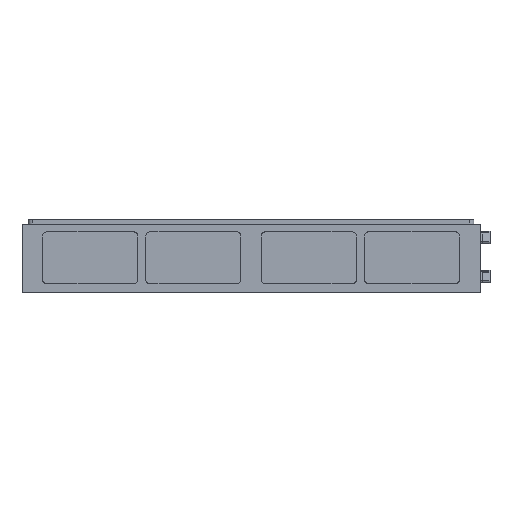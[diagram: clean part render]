
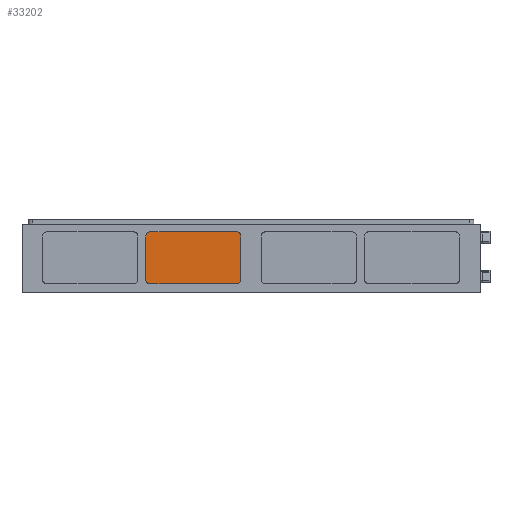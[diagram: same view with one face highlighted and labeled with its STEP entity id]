
A CAD part, left-side view. The second image highlights one B-rep face of the part: STEP entity #33202.
In plain terms, the highlighted planar face has unit normal (-1, 0, 0).
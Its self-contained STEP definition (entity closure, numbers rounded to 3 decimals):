
#20 = PLANE ( 'NONE',  #22687 ) ;
#630 = DIRECTION ( 'NONE',  ( -1., 0., 0. ) ) ;
#738 = ORIENTED_EDGE ( 'NONE', *, *, #15940, .T. ) ;
#1093 = CIRCLE ( 'NONE', #27509, 2. ) ;
#1124 = LINE ( 'NONE', #30907, #49271 ) ;
#2524 = DIRECTION ( 'NONE',  ( 0., 0., 1. ) ) ;
#3295 = VECTOR ( 'NONE', #34337, 1000. ) ;
#3660 = EDGE_CURVE ( 'NONE', #48681, #23848, #27155, .T. ) ;
#5101 = VERTEX_POINT ( 'NONE', #22915 ) ;
#5534 = CARTESIAN_POINT ( 'NONE',  ( -45.219, 117.198, 185.442 ) ) ;
#5693 = DIRECTION ( 'NONE',  ( -1., 0., 0. ) ) ;
#6235 = DIRECTION ( 'NONE',  ( 0., 0., 1. ) ) ;
#7520 = ORIENTED_EDGE ( 'NONE', *, *, #34165, .T. ) ;
#8303 = ORIENTED_EDGE ( 'NONE', *, *, #16872, .T. ) ;
#8767 = CARTESIAN_POINT ( 'NONE',  ( -45.219, 119.198, 206.642 ) ) ;
#9024 = DIRECTION ( 'NONE',  ( 0., 0., 1. ) ) ;
#9892 = DIRECTION ( 'NONE',  ( 0., 0., -1. ) ) ;
#10506 = CARTESIAN_POINT ( 'NONE',  ( -45.219, 119.198, 185.442 ) ) ;
#10727 = FACE_OUTER_BOUND ( 'NONE', #29690, .T. ) ;
#11821 = ORIENTED_EDGE ( 'NONE', *, *, #3660, .T. ) ;
#14118 = LINE ( 'NONE', #25332, #3295 ) ;
#14852 = VECTOR ( 'NONE', #38209, 1000. ) ;
#15442 = DIRECTION ( 'NONE',  ( -1., 0., 0. ) ) ;
#15814 = DIRECTION ( 'NONE',  ( 0., 1., 0. ) ) ;
#15940 = EDGE_CURVE ( 'NONE', #5101, #32713, #27085, .T. ) ;
#16872 = EDGE_CURVE ( 'NONE', #33908, #41704, #18181, .T. ) ;
#18181 = CIRCLE ( 'NONE', #21787, 2. ) ;
#19025 = CARTESIAN_POINT ( 'NONE',  ( -45.219, 119.198, 208.642 ) ) ;
#19147 = CARTESIAN_POINT ( 'NONE',  ( -45.219, 161.198, 206.642 ) ) ;
#19942 = AXIS2_PLACEMENT_3D ( 'NONE', #10506, #15442, #2524 ) ;
#21787 = AXIS2_PLACEMENT_3D ( 'NONE', #19147, #28038, #24441 ) ;
#22687 = AXIS2_PLACEMENT_3D ( 'NONE', #8767, #5693, #31428 ) ;
#22915 = CARTESIAN_POINT ( 'NONE',  ( -45.219, 161.198, 183.442 ) ) ;
#23430 = VERTEX_POINT ( 'NONE', #36648 ) ;
#23542 = CARTESIAN_POINT ( 'NONE',  ( -45.219, 161.198, 208.642 ) ) ;
#23658 = EDGE_CURVE ( 'NONE', #26701, #48681, #14118, .T. ) ;
#23848 = VERTEX_POINT ( 'NONE', #19025 ) ;
#23983 = CARTESIAN_POINT ( 'NONE',  ( -45.219, 161.198, 208.642 ) ) ;
#24441 = DIRECTION ( 'NONE',  ( 0., 0., -1. ) ) ;
#25162 = EDGE_CURVE ( 'NONE', #23430, #5101, #1093, .T. ) ;
#25221 = ORIENTED_EDGE ( 'NONE', *, *, #45567, .T. ) ;
#25332 = CARTESIAN_POINT ( 'NONE',  ( -45.219, 117.198, 185.442 ) ) ;
#26701 = VERTEX_POINT ( 'NONE', #5534 ) ;
#27085 = LINE ( 'NONE', #55463, #14852 ) ;
#27155 = CIRCLE ( 'NONE', #54277, 2. ) ;
#27509 = AXIS2_PLACEMENT_3D ( 'NONE', #30776, #630, #9024 ) ;
#27848 = LINE ( 'NONE', #23983, #31183 ) ;
#28038 = DIRECTION ( 'NONE',  ( -1., 0., 0. ) ) ;
#29690 = EDGE_LOOP ( 'NONE', ( #11821, #43536, #8303, #7520, #32820, #738, #25221, #38679 ) ) ;
#30776 = CARTESIAN_POINT ( 'NONE',  ( -45.219, 161.198, 185.442 ) ) ;
#30907 = CARTESIAN_POINT ( 'NONE',  ( -45.219, 163.198, 185.442 ) ) ;
#31183 = VECTOR ( 'NONE', #15814, 1000. ) ;
#31428 = DIRECTION ( 'NONE',  ( 0., 0., 1. ) ) ;
#32156 = DIRECTION ( 'NONE',  ( -1., 0., 0. ) ) ;
#32713 = VERTEX_POINT ( 'NONE', #47823 ) ;
#32820 = ORIENTED_EDGE ( 'NONE', *, *, #25162, .T. ) ;
#33202 = ADVANCED_FACE ( 'NONE', ( #10727 ), #20, .T. ) ;
#33908 = VERTEX_POINT ( 'NONE', #23542 ) ;
#34165 = EDGE_CURVE ( 'NONE', #41704, #23430, #1124, .T. ) ;
#34337 = DIRECTION ( 'NONE',  ( 0., 0., 1. ) ) ;
#36648 = CARTESIAN_POINT ( 'NONE',  ( -45.219, 163.198, 185.442 ) ) ;
#38209 = DIRECTION ( 'NONE',  ( 0., -1., 0. ) ) ;
#38679 = ORIENTED_EDGE ( 'NONE', *, *, #23658, .T. ) ;
#40682 = CARTESIAN_POINT ( 'NONE',  ( -45.219, 119.198, 206.642 ) ) ;
#41704 = VERTEX_POINT ( 'NONE', #50266 ) ;
#43536 = ORIENTED_EDGE ( 'NONE', *, *, #50540, .T. ) ;
#45567 = EDGE_CURVE ( 'NONE', #32713, #26701, #50558, .T. ) ;
#47823 = CARTESIAN_POINT ( 'NONE',  ( -45.219, 119.198, 183.442 ) ) ;
#48681 = VERTEX_POINT ( 'NONE', #50706 ) ;
#49271 = VECTOR ( 'NONE', #9892, 1000. ) ;
#50266 = CARTESIAN_POINT ( 'NONE',  ( -45.219, 163.198, 206.642 ) ) ;
#50540 = EDGE_CURVE ( 'NONE', #23848, #33908, #27848, .T. ) ;
#50558 = CIRCLE ( 'NONE', #19942, 2. ) ;
#50706 = CARTESIAN_POINT ( 'NONE',  ( -45.219, 117.198, 206.642 ) ) ;
#54277 = AXIS2_PLACEMENT_3D ( 'NONE', #40682, #32156, #6235 ) ;
#55463 = CARTESIAN_POINT ( 'NONE',  ( -45.219, 161.198, 183.442 ) ) ;
